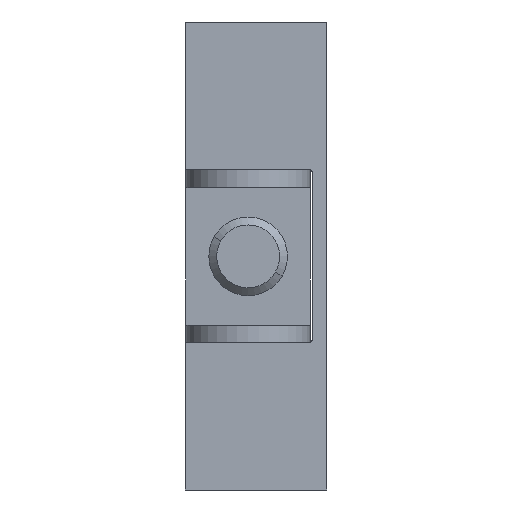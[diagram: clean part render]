
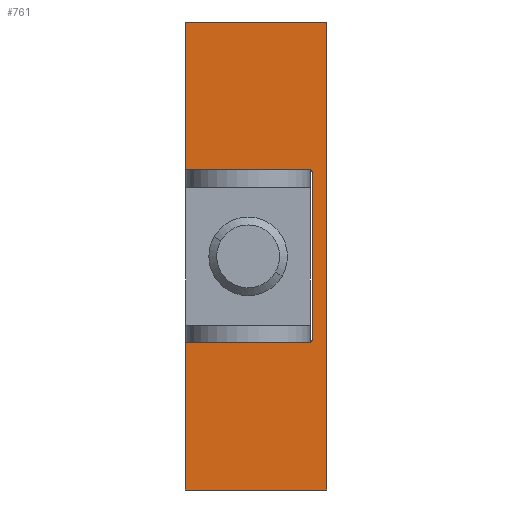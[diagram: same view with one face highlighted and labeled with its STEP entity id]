
A CAD part, front view. The second image highlights one B-rep face of the part: STEP entity #761.
In plain terms, the highlighted planar face has unit normal (0, -1, 0).
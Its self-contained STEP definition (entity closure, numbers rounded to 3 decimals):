
#10=DIRECTION('',(1.,0.,0.));
#11=VECTOR('',#10,18.);
#12=CARTESIAN_POINT('',(-8.,-17.,0.));
#13=LINE('',#12,#11);
#48=CARTESIAN_POINT('',(7.7,-17.,40.25));
#49=DIRECTION('',(0.,1.,0.));
#50=DIRECTION('',(0.,0.,1.));
#51=AXIS2_PLACEMENT_3D('',#48,#49,#50);
#159=CARTESIAN_POINT('',(7.7,-17.,19.25));
#160=DIRECTION('',(0.,1.,0.));
#161=DIRECTION('',(1.,0.,0.));
#162=AXIS2_PLACEMENT_3D('',#159,#160,#161);
#172=DIRECTION('',(0.,0.,1.));
#173=VECTOR('',#172,21.);
#174=CARTESIAN_POINT('',(8.2,-17.,19.25));
#175=LINE('',#174,#173);
#176=DIRECTION('',(1.,0.,0.));
#177=VECTOR('',#176,15.7);
#178=CARTESIAN_POINT('',(-8.,-17.,40.75));
#179=LINE('',#178,#177);
#180=DIRECTION('',(0.,0.,1.));
#181=VECTOR('',#180,18.75);
#182=CARTESIAN_POINT('',(-8.,-17.,40.75));
#183=LINE('',#182,#181);
#184=DIRECTION('',(0.,0.,1.));
#185=VECTOR('',#184,18.75);
#186=CARTESIAN_POINT('',(-8.,-17.,0.));
#187=LINE('',#186,#185);
#188=DIRECTION('',(1.,0.,0.));
#189=VECTOR('',#188,15.7);
#190=CARTESIAN_POINT('',(-8.,-17.,18.75));
#191=LINE('',#190,#189);
#221=DIRECTION('',(1.,0.,0.));
#222=VECTOR('',#221,18.);
#223=CARTESIAN_POINT('',(-8.,-17.,59.5));
#224=LINE('',#223,#222);
#239=DIRECTION('',(0.,0.,1.));
#240=VECTOR('',#239,59.5);
#241=CARTESIAN_POINT('',(10.,-17.,0.));
#242=LINE('',#241,#240);
#384=CARTESIAN_POINT('',(-8.,-17.,0.));
#386=VERTEX_POINT('',#384);
#387=CARTESIAN_POINT('',(10.,-17.,0.));
#388=VERTEX_POINT('',#387);
#392=CARTESIAN_POINT('',(-8.,-17.,59.5));
#394=VERTEX_POINT('',#392);
#395=CARTESIAN_POINT('',(10.,-17.,59.5));
#396=VERTEX_POINT('',#395);
#404=CARTESIAN_POINT('',(-8.,-17.,18.75));
#406=VERTEX_POINT('',#404);
#408=CARTESIAN_POINT('',(-8.,-17.,40.75));
#410=VERTEX_POINT('',#408);
#427=CARTESIAN_POINT('',(7.7,-17.,18.75));
#429=VERTEX_POINT('',#427);
#431=CARTESIAN_POINT('',(8.2,-17.,19.25));
#433=VERTEX_POINT('',#431);
#435=CARTESIAN_POINT('',(7.7,-17.,40.75));
#437=VERTEX_POINT('',#435);
#439=CARTESIAN_POINT('',(8.2,-17.,40.25));
#441=VERTEX_POINT('',#439);
#740=CARTESIAN_POINT('',(-8.,-17.,0.));
#741=DIRECTION('',(0.,-1.,0.));
#742=DIRECTION('',(1.,0.,0.));
#743=AXIS2_PLACEMENT_3D('',#740,#741,#742);
#744=PLANE('',#743);
#745=ORIENTED_EDGE('',*,*,#735,.T.);
#746=ORIENTED_EDGE('',*,*,#568,.F.);
#747=ORIENTED_EDGE('',*,*,#586,.F.);
#749=ORIENTED_EDGE('',*,*,#748,.T.);
#751=ORIENTED_EDGE('',*,*,#750,.T.);
#753=ORIENTED_EDGE('',*,*,#752,.F.);
#754=ORIENTED_EDGE('',*,*,#496,.F.);
#756=ORIENTED_EDGE('',*,*,#755,.T.);
#757=ORIENTED_EDGE('',*,*,#700,.T.);
#758=ORIENTED_EDGE('',*,*,#722,.F.);
#759=EDGE_LOOP('',(#745,#746,#747,#749,#751,#753,#754,#756,#757,#758));
#760=FACE_OUTER_BOUND('',#759,.F.);
#761=ADVANCED_FACE('',(#760),#744,.T.);
#52=CIRCLE('',#51,0.5);
#163=CIRCLE('',#162,0.5);
#496=EDGE_CURVE('',#386,#388,#13,.T.);
#568=EDGE_CURVE('',#437,#441,#52,.T.);
#586=EDGE_CURVE('',#410,#437,#179,.T.);
#700=EDGE_CURVE('',#406,#429,#191,.T.);
#722=EDGE_CURVE('',#433,#429,#163,.T.);
#735=EDGE_CURVE('',#433,#441,#175,.T.);
#748=EDGE_CURVE('',#410,#394,#183,.T.);
#750=EDGE_CURVE('',#394,#396,#224,.T.);
#752=EDGE_CURVE('',#388,#396,#242,.T.);
#755=EDGE_CURVE('',#386,#406,#187,.T.);
